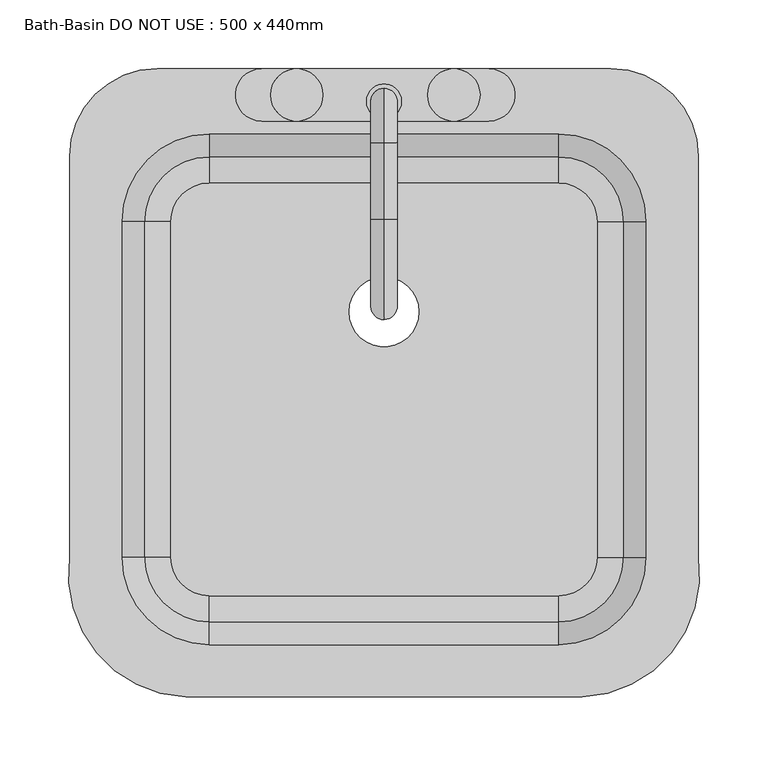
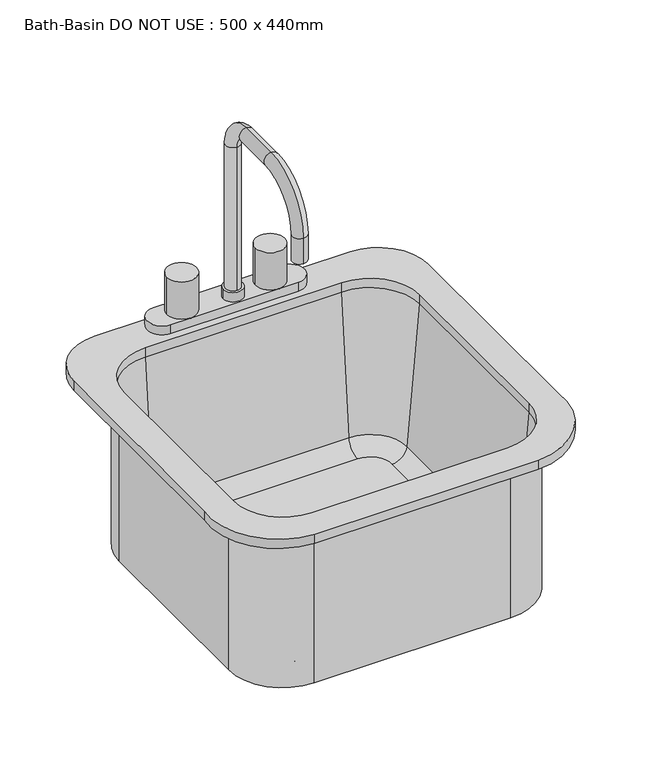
"""IFC4 building model written with IfcOpenShell, lengths in millimetres: flow terminal geometry, Bath-Basin DO NOT USE : 500 x 440mm."""

from ifc_helpers import new_model, si_unit, point, frame, origin, place, context, project, spatial, polyline, circle_curve, ellipse_curve, trimmed, source, transform, mapped, element, save
from ifc_brep_helpers import plane_surface, cylinder_surface, revolved_surface, advanced_brep


def bath_basin_do_not_use_500_x_440mm_d66f773a(model_context):
    return source(origin(), model_context, "Body", "AdvancedBrep", [
        advanced_brep(
        [(212.5392406, 69.0204011, 546.1), (142.6892406, 138.8704011, 546.1), (142.6892406, 138.8704011, 762.0), (212.5392406, 69.0204011, 762.0), (212.5392406, -175.4545989, 546.1), (142.6892406, -245.3045989, 546.1), (-111.3107595, -245.3045989, 546.1), (-181.1607595, -175.4545989, 546.1), (-181.1607595, 69.0204011, 546.1), (-111.3107595, 138.8704011, 546.1), (-9.7107594, 3.175, 546.1), (41.0892406, 3.175, 546.1), (170.6776588, 69.0204011, 555.625), (142.6892406, 97.0088193, 555.625), (-111.3107595, 97.0088193, 555.625), (-139.2991777, 69.0204011, 555.625), (-139.2991777, -175.4545989, 555.625), (-111.3107595, -203.4430171, 555.625), (142.6892406, -203.4430171, 555.625), (170.6776588, -175.4545989, 555.625), (-9.7107594, 3.175, 555.625), (41.0892406, 3.175, 555.625), (189.6551678, 69.0204011, 573.0146831), (142.6892406, 115.9863283, 573.0146831), (206.1892406, 69.0204011, 762.0), (142.6892406, 132.5204011, 762.0), (212.5392406, -175.4545989, 762.0), (189.6551678, -175.4545989, 573.0146831), (206.1892406, -175.4545989, 762.0), (142.6892406, -245.3045989, 762.0), (142.6892406, -222.4205261, 573.0146831), (142.6892406, -238.9545989, 762.0), (-111.3107595, -245.3045989, 762.0), (-111.3107595, -222.4205261, 573.0146831), (-111.3107595, -238.9545989, 762.0), (-181.1607595, -175.4545989, 762.0), (-158.2766867, -175.4545989, 573.0146831), (-174.8107595, -175.4545989, 762.0), (-181.1607595, 69.0204011, 762.0), (-158.2766867, 69.0204011, 573.0146831), (-174.8107595, 69.0204011, 762.0), (-111.3107595, 138.8704011, 762.0), (-111.3107595, 115.9863283, 573.0146831), (-111.3107595, 132.5204011, 762.0), (-128.5606924, -277.0545989, 774.7), (159.9391735, -277.0545989, 774.7), (244.2892406, -175.4545989, 774.7), (244.2892406, 116.6454011, 774.7), (180.7892406, 180.1454011, 774.7), (-149.4107594, 180.1454011, 774.7), (-212.9107594, 116.6454011, 774.7), (-212.9107594, -175.4545982, 774.7), (142.6892406, 132.5204011, 774.7), (206.1892406, 69.0204011, 774.7), (206.1892406, -175.4545989, 774.7), (142.6892406, -238.9545989, 774.7), (-111.3107595, -238.9545989, 774.7), (-174.8107595, -175.4545989, 774.7), (-174.8107595, 69.0204011, 774.7), (-111.3107595, 132.5204011, 774.7), (-128.5606924, -277.0545989, 762.0), (-212.9107594, -175.4545982, 762.0), (-212.9107594, 116.6454011, 762.0), (-149.4107594, 180.1454011, 762.0), (180.7892406, 180.1454011, 762.0), (244.2892406, 116.6454011, 762.0), (244.2892406, -175.4545989, 762.0), (159.9391735, -277.0545989, 762.0)],
        [
            (0, 1, circle_curve(frame((142.6892406, 69.0204011, 546.1), z_axis=(0.0, 0.0, 1.0), x_axis=(0.0, 1.0, 0.0)), 69.85)),
            (1, 2),
            (2, 3, circle_curve(frame((142.6892406, 69.0204011, 762.0), z_axis=(0.0, 0.0, -1.0), x_axis=(0.0, 1.0, 0.0)), 69.85)),
            (3, 0),
            (0, 4),
            (4, 5, circle_curve(frame((142.6892406, -175.4545989, 546.1), z_axis=(0.0, 0.0, -1.0), x_axis=(1.0, 0.0, 0.0)), 69.85)),
            (5, 6),
            (6, 7, circle_curve(frame((-111.3107595, -175.4545989, 546.1), z_axis=(0.0, 0.0, -1.0), x_axis=(0.0, -1.0, 0.0)), 69.85)),
            (7, 8),
            (8, 9, circle_curve(frame((-111.3107595, 69.0204011, 546.1), z_axis=(0.0, 0.0, -1.0), x_axis=(-1.0, 0.0, 0.0)), 69.85)),
            (9, 1),
            (10, 11, circle_curve(frame((15.6892406, 3.175, 546.1), z_axis=(0.0, 0.0, 1.0), x_axis=(1.0, 0.0, 0.0)), 25.4)),
            (11, 10, circle_curve(frame((15.6892406, 3.175, 546.1), z_axis=(0.0, 0.0, 1.0), x_axis=(1.0, 0.0, 0.0)), 25.4)),
            (12, 13, circle_curve(frame((142.6892406, 69.0204011, 555.625), z_axis=(0.0, 0.0, 1.0), x_axis=(0.0, 1.0, 0.0)), 27.9884182)),
            (13, 14),
            (14, 15, circle_curve(frame((-111.3107595, 69.0204011, 555.625), z_axis=(0.0, 0.0, 1.0), x_axis=(-1.0, 0.0, 0.0)), 27.9884182)),
            (15, 16),
            (16, 17, circle_curve(frame((-111.3107595, -175.4545989, 555.625), z_axis=(0.0, 0.0, 1.0), x_axis=(0.0, -1.0, 0.0)), 27.9884182)),
            (17, 18),
            (18, 19, circle_curve(frame((142.6892406, -175.4545989, 555.625), z_axis=(0.0, 0.0, 1.0), x_axis=(1.0, 0.0, 0.0)), 27.9884182)),
            (19, 12),
            (20, 21, circle_curve(frame((15.6892406, 3.175, 555.625), z_axis=(0.0, 0.0, -1.0), x_axis=(1.0, 0.0, 0.0)), 25.4)),
            (21, 20, circle_curve(frame((15.6892406, 3.175, 555.625), z_axis=(0.0, 0.0, -1.0), x_axis=(1.0, 0.0, 0.0)), 25.4)),
            (12, 22, circle_curve(frame((170.6776588, 69.0204011, 574.675), z_axis=(0.0, -1.0, 0.0), x_axis=(1.0, 0.0, 0.0)), 19.05)),
            (22, 23, circle_curve(frame((142.6892406, 69.0204011, 573.0146831), z_axis=(0.0, 0.0, 1.0), x_axis=(0.0, 1.0, 0.0)), 46.9659272)),
            (23, 13, circle_curve(frame((142.6892406, 97.0088193, 574.675), z_axis=(-1.0, 0.0, 0.0), x_axis=(0.0, 1.0, 0.0)), 19.05)),
            (22, 24),
            (24, 25, circle_curve(frame((142.6892406, 69.0204011, 762.0), z_axis=(0.0, 0.0, 1.0), x_axis=(0.0, 1.0, 0.0)), 63.5)),
            (25, 23),
            (3, 26),
            (26, 4),
            (19, 27, circle_curve(frame((170.6776588, -175.4545989, 574.675), z_axis=(0.0, -1.0, 0.0), x_axis=(1.0, 0.0, 0.0)), 19.05)),
            (27, 22),
            (27, 28),
            (28, 24),
            (26, 29, circle_curve(frame((142.6892406, -175.4545989, 762.0), z_axis=(0.0, 0.0, -1.0), x_axis=(1.0, 0.0, 0.0)), 69.85)),
            (29, 5),
            (18, 30, circle_curve(frame((142.6892406, -203.4430171, 574.675), z_axis=(-1.0, 0.0, 0.0), x_axis=(0.0, -1.0, 0.0)), 19.05)),
            (30, 27, circle_curve(frame((142.6892406, -175.4545989, 573.0146831), z_axis=(0.0, 0.0, 1.0), x_axis=(1.0, 0.0, 0.0)), 46.9659272)),
            (30, 31),
            (31, 28, circle_curve(frame((142.6892406, -175.4545989, 762.0), z_axis=(0.0, 0.0, 1.0), x_axis=(1.0, 0.0, 0.0)), 63.5)),
            (29, 32),
            (32, 6),
            (17, 33, circle_curve(frame((-111.3107595, -203.4430171, 574.675), z_axis=(-1.0, 0.0, 0.0), x_axis=(0.0, -1.0, 0.0)), 19.05)),
            (33, 30),
            (33, 34),
            (34, 31),
            (32, 35, circle_curve(frame((-111.3107595, -175.4545989, 762.0), z_axis=(0.0, 0.0, -1.0), x_axis=(0.0, -1.0, 0.0)), 69.85)),
            (35, 7),
            (16, 36, circle_curve(frame((-139.2991777, -175.4545989, 574.675), z_axis=(0.0, 1.0, 0.0), x_axis=(-1.0, 0.0, 0.0)), 19.05)),
            (36, 33, circle_curve(frame((-111.3107595, -175.4545989, 573.0146831), z_axis=(0.0, 0.0, 1.0), x_axis=(0.0, -1.0, 0.0)), 46.9659272)),
            (36, 37),
            (37, 34, circle_curve(frame((-111.3107595, -175.4545989, 762.0), z_axis=(0.0, 0.0, 1.0), x_axis=(0.0, -1.0, 0.0)), 63.5)),
            (35, 38),
            (38, 8),
            (15, 39, circle_curve(frame((-139.2991777, 69.0204011, 574.675), z_axis=(0.0, 1.0, 0.0), x_axis=(-1.0, 0.0, 0.0)), 19.05)),
            (39, 36),
            (39, 40),
            (40, 37),
            (38, 41, circle_curve(frame((-111.3107595, 69.0204011, 762.0), z_axis=(0.0, 0.0, -1.0), x_axis=(-1.0, 0.0, 0.0)), 69.85)),
            (41, 9),
            (14, 42, circle_curve(frame((-111.3107595, 97.0088193, 574.675), z_axis=(1.0, 0.0, 0.0), x_axis=(0.0, 1.0, 0.0)), 19.05)),
            (42, 39, circle_curve(frame((-111.3107595, 69.0204011, 573.0146831), z_axis=(0.0, 0.0, 1.0), x_axis=(-1.0, 0.0, 0.0)), 46.9659272)),
            (42, 43),
            (43, 40, circle_curve(frame((-111.3107595, 69.0204011, 762.0), z_axis=(0.0, 0.0, 1.0), x_axis=(-1.0, 0.0, 0.0)), 63.5)),
            (41, 2),
            (23, 42),
            (25, 43),
            (20, 10),
            (11, 21),
            (44, 45),
            (45, 46, circle_curve(frame((156.1319558, -188.0793432, 774.7), z_axis=(0.0, 0.0, 1.0), x_axis=(1.0, 0.0, 0.0)), 89.0566732)),
            (46, 47),
            (47, 48, circle_curve(frame((180.7892406, 116.6454011, 774.7), z_axis=(0.0, 0.0, 1.0), x_axis=(1.0, 0.0, 0.0)), 63.5)),
            (48, 49),
            (49, 50, circle_curve(frame((-149.4107594, 116.6454011, 774.7), z_axis=(0.0, 0.0, 1.0), x_axis=(1.0, 0.0, 0.0)), 63.5)),
            (50, 51),
            (51, 44, circle_curve(frame((-124.7534746, -188.0793432, 774.7), z_axis=(0.0, 0.0, 1.0), x_axis=(1.0, 0.0, 0.0)), 89.0566732)),
            (52, 53, circle_curve(frame((142.6892406, 69.0204011, 774.7), z_axis=(0.0, 0.0, -1.0), x_axis=(1.0, 0.0, 0.0)), 63.5)),
            (53, 54),
            (54, 55, circle_curve(frame((142.6892406, -175.4545989, 774.7), z_axis=(0.0, 0.0, -1.0), x_axis=(1.0, 0.0, 0.0)), 63.5)),
            (55, 56),
            (56, 57, circle_curve(frame((-111.3107595, -175.4545989, 774.7), z_axis=(0.0, 0.0, -1.0), x_axis=(1.0, 0.0, 0.0)), 63.5)),
            (57, 58),
            (58, 59, circle_curve(frame((-111.3107595, 69.0204011, 774.7), z_axis=(0.0, 0.0, -1.0), x_axis=(1.0, 0.0, 0.0)), 63.5)),
            (59, 52),
            (60, 61, circle_curve(frame((-124.7534746, -188.0793432, 762.0), z_axis=(0.0, 0.0, -1.0), x_axis=(1.0, 0.0, 0.0)), 89.0566732)),
            (61, 62),
            (62, 63, circle_curve(frame((-149.4107594, 116.6454011, 762.0), z_axis=(0.0, 0.0, -1.0), x_axis=(1.0, 0.0, 0.0)), 63.5)),
            (63, 64),
            (64, 65, circle_curve(frame((180.7892406, 116.6454011, 762.0), z_axis=(0.0, 0.0, -1.0), x_axis=(1.0, 0.0, 0.0)), 63.5)),
            (65, 66),
            (66, 67, circle_curve(frame((156.1319558, -188.0793432, 762.0), z_axis=(0.0, 0.0, -1.0), x_axis=(1.0, 0.0, 0.0)), 89.0566732)),
            (67, 60),
            (44, 60),
            (67, 45),
            (66, 46),
            (65, 47),
            (64, 48),
            (63, 49),
            (62, 50),
            (61, 51),
            (52, 25),
            (24, 53),
            (28, 54),
            (31, 55),
            (34, 56),
            (37, 57),
            (40, 58),
            (43, 59),
        ],
        [
            cylinder_surface(frame((142.6892406, 69.0204011, 0.0), z_axis=(0.0, 0.0, -1.0), x_axis=(0.0, 1.0, 0.0)), 69.85),
            plane_surface(frame((142.6892406, 69.0204011, 546.1), z_axis=(0.0, 0.0, -1.0), x_axis=(0.0, 1.0, 0.0))),
            plane_surface(frame((142.6892406, 69.0204011, 555.625), z_axis=(0.0, 0.0, 1.0), x_axis=(0.0, 1.0, 0.0))),
            revolved_surface(trimmed(ellipse_curve(frame((142.6892406, 97.0088193, 574.675), z_axis=(1.0, 0.0, 0.0), x_axis=(0.0, 1.0, 0.0)), 19.05, 19.05), [point((142.6892406, 97.0088193, 555.625))], [point((142.6892406, 115.9863283, 573.0146831))], True, "CARTESIAN"), (142.6892406, 69.0204011, 0.0), (0.0, 0.0, -1.0)),
            revolved_surface(polyline([(142.6892406, 115.9863283, 573.0146831), (142.6892406, 132.5204011, 762.0)]), (142.6892406, 69.0204011, 0.0), (0.0, 0.0, -1.0)),
            plane_surface(frame((212.5392406, 69.0204011, 762.0), z_axis=(1.0, 0.0, 0.0), x_axis=(0.0, -1.0, 0.0))),
            revolved_surface(polyline([(189.7276588, -175.4545989, 574.675), (189.7276588, 69.0204011, 574.675)]), (170.6776588, 69.0204011, 574.675), (0.0, -1.0, 0.0)),
            plane_surface(frame((189.6551678, 69.0204011, 573.0146831), z_axis=(-0.9961946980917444, 0.0, 0.08715574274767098), x_axis=(0.0, -1.0, 0.0))),
            cylinder_surface(frame((142.6892406, -175.4545989, 0.0), z_axis=(0.0, 0.0, -1.0), x_axis=(1.0, 0.0, 0.0)), 69.85),
            revolved_surface(trimmed(ellipse_curve(frame((170.6776588, -175.4545989, 574.675), z_axis=(0.0, -1.0, 0.0), x_axis=(1.0, 0.0, 0.0)), 19.05, 19.05), [point((170.6776588, -175.4545989, 555.625))], [point((189.6551678, -175.4545989, 573.0146831))], True, "CARTESIAN"), (142.6892406, -175.4545989, 0.0), (0.0, 0.0, -1.0)),
            revolved_surface(polyline([(189.6551678, -175.4545989, 573.0146831), (206.1892406, -175.4545989, 762.0)]), (142.6892406, -175.4545989, 0.0), (0.0, 0.0, -1.0)),
            plane_surface(frame((142.6892406, -245.3045989, 762.0), z_axis=(0.0, -1.0, 0.0), x_axis=(-1.0, 0.0, 0.0))),
            revolved_surface(polyline([(-111.31075950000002, -222.4930171, 574.675), (142.6892406, -222.4930171, 574.675)]), (142.6892406, -203.4430171, 574.675), (-1.0, 0.0, 0.0)),
            plane_surface(frame((142.6892406, -222.4205261, 573.0146831), z_axis=(0.0, 0.9961946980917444, 0.08715574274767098), x_axis=(-1.0, 0.0, 0.0))),
            cylinder_surface(frame((-111.3107595, -175.4545989, 0.0), z_axis=(0.0, 0.0, -1.0), x_axis=(0.0, -1.0, 0.0)), 69.85),
            revolved_surface(trimmed(ellipse_curve(frame((-111.3107595, -203.4430171, 574.675), z_axis=(-1.0, 0.0, 0.0), x_axis=(0.0, -1.0, 0.0)), 19.05, 19.05), [point((-111.3107595, -203.4430171, 555.625))], [point((-111.3107595, -222.4205261, 573.0146831))], True, "CARTESIAN"), (-111.3107595, -175.4545989, 0.0), (0.0, 0.0, -1.0)),
            revolved_surface(polyline([(-111.3107595, -222.4205261, 573.0146831), (-111.3107595, -238.9545989, 762.0)]), (-111.3107595, -175.4545989, 0.0), (0.0, 0.0, -1.0)),
            plane_surface(frame((-181.1607595, -175.4545989, 762.0), z_axis=(-1.0, 0.0, 0.0), x_axis=(0.0, 1.0, 0.0))),
            revolved_surface(polyline([(-158.3491777, 69.02040110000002, 574.675), (-158.3491777, -175.4545989, 574.675)]), (-139.2991777, -175.4545989, 574.675), (0.0, 1.0, 0.0)),
            plane_surface(frame((-158.2766867, -175.4545989, 573.0146831), z_axis=(0.9961946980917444, 0.0, 0.08715574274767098), x_axis=(0.0, 1.0, 0.0))),
            cylinder_surface(frame((-111.3107595, 69.0204011, 0.0), z_axis=(0.0, 0.0, -1.0), x_axis=(-1.0, 0.0, 0.0)), 69.85),
            revolved_surface(trimmed(ellipse_curve(frame((-139.2991777, 69.0204011, 574.675), z_axis=(0.0, 1.0, 0.0), x_axis=(-1.0, 0.0, 0.0)), 19.05, 19.05), [point((-139.2991777, 69.0204011, 555.625))], [point((-158.2766867, 69.0204011, 573.0146831))], True, "CARTESIAN"), (-111.3107595, 69.0204011, 0.0), (0.0, 0.0, -1.0)),
            revolved_surface(polyline([(-158.2766867, 69.0204011, 573.0146831), (-174.8107595, 69.0204011, 762.0)]), (-111.3107595, 69.0204011, 0.0), (0.0, 0.0, -1.0)),
            plane_surface(frame((-111.3107595, 138.8704011, 762.0), z_axis=(0.0, 1.0, 0.0), x_axis=(1.0, 0.0, 0.0))),
            revolved_surface(polyline([(142.6892406, 116.0588193, 574.675), (-111.3107595, 116.0588193, 574.675)]), (-111.3107595, 97.0088193, 574.675), (1.0, 0.0, 0.0)),
            plane_surface(frame((-111.3107595, 115.9863283, 573.0146831), z_axis=(0.0, -0.9961946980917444, 0.08715574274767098), x_axis=(1.0, 0.0, 0.0))),
            revolved_surface(polyline([(41.0892406, 3.175, 546.1), (41.0892406, 3.175, 555.625)]), (15.6892406, 3.175, 0.0), (0.0, 0.0, -1.0)),
            plane_surface(frame((159.9391735, -277.0545989, 774.7), z_axis=(0.0, 0.0, 1.0), x_axis=(1.0, 0.0, 0.0))),
            plane_surface(frame((159.9391735, -277.0545989, 762.0), z_axis=(0.0, 0.0, -1.0), x_axis=(-1.0, 0.0, 0.0))),
            plane_surface(frame((-128.5606924, -277.0545989, 774.7), z_axis=(0.0, -1.0, 0.0), x_axis=(0.0, 0.0, -1.0))),
            cylinder_surface(frame((156.1319558, -188.0793432, 762.0), z_axis=(0.0, 0.0, 1.0), x_axis=(1.0, 0.0, 0.0)), 89.0566732),
            plane_surface(frame((244.2892406, -175.4545989, 774.7), z_axis=(1.0, 0.0, 0.0), x_axis=(0.0, 0.0, -1.0))),
            cylinder_surface(frame((180.7892406, 116.6454011, 762.0), z_axis=(0.0, 0.0, 1.0), x_axis=(1.0, 0.0, 0.0)), 63.5),
            plane_surface(frame((180.7892406, 180.1454011, 774.7), z_axis=(0.0, 1.0, 0.0), x_axis=(0.0, 0.0, -1.0))),
            cylinder_surface(frame((-149.4107594, 116.6454011, 762.0), z_axis=(0.0, 0.0, 1.0), x_axis=(1.0, 0.0, 0.0)), 63.5),
            plane_surface(frame((-212.9107594, 116.6454011, 774.7), z_axis=(-1.0, 0.0, 0.0), x_axis=(0.0, 0.0, -1.0))),
            cylinder_surface(frame((-124.7534746, -188.0793432, 762.0), z_axis=(0.0, 0.0, 1.0), x_axis=(1.0, 0.0, 0.0)), 89.0566732),
            revolved_surface(polyline([(206.1892406, 69.0204011, 762.0), (206.1892406, 69.0204011, 774.7)]), (142.6892406, 69.0204011, 0.0), (0.0, 0.0, -1.0)),
            plane_surface(frame((206.1892406, 69.0204011, 774.7), z_axis=(-1.0, 0.0, 0.0), x_axis=(0.0, 0.0, -1.0))),
            revolved_surface(polyline([(206.1892406, -175.4545989, 762.0), (206.1892406, -175.4545989, 774.7)]), (142.6892406, -175.4545989, 0.0), (0.0, 0.0, -1.0)),
            plane_surface(frame((142.6892406, -238.9545989, 774.7), z_axis=(0.0, 1.0, 0.0), x_axis=(0.0, 0.0, -1.0))),
            revolved_surface(polyline([(-47.8107595, -175.4545989, 762.0), (-47.8107595, -175.4545989, 774.7)]), (-111.3107595, -175.4545989, 0.0), (0.0, 0.0, -1.0)),
            plane_surface(frame((-174.8107595, -175.4545989, 774.7), z_axis=(1.0, 0.0, 0.0), x_axis=(0.0, 0.0, -1.0))),
            revolved_surface(polyline([(-47.8107595, 69.0204011, 762.0), (-47.8107595, 69.0204011, 774.7)]), (-111.3107595, 69.0204011, 0.0), (0.0, 0.0, -1.0)),
            plane_surface(frame((-111.3107595, 132.5204011, 774.7), z_axis=(0.0, -1.0, 0.0), x_axis=(0.0, 0.0, -1.0))),
        ],
        [
            (0, [[1, 2, 3, 4]]),
            (1, [[-1, 5, 6, 7, 8, 9, 10, 11], [12, 13]]),
            (2, [[14, 15, 16, 17, 18, 19, 20, 21], [22, 23]]),
            (3, [[-14, 24, 25, 26]]),
            (4, [[-25, 27, 28, 29]]),
            (5, [[-4, 30, 31, -5]]),
            (6, [[-24, -21, 32, 33]]),
            (7, [[-27, -33, 34, 35]]),
            (8, [[-31, 36, 37, -6]]),
            (9, [[-32, -20, 38, 39]]),
            (10, [[-34, -39, 40, 41]]),
            (11, [[-37, 42, 43, -7]]),
            (12, [[-38, -19, 44, 45]]),
            (13, [[-40, -45, 46, 47]]),
            (14, [[-43, 48, 49, -8]]),
            (15, [[-44, -18, 50, 51]]),
            (16, [[-46, -51, 52, 53]]),
            (17, [[-49, 54, 55, -9]]),
            (18, [[-50, -17, 56, 57]]),
            (19, [[-52, -57, 58, 59]]),
            (20, [[-55, 60, 61, -10]]),
            (21, [[-56, -16, 62, 63]]),
            (22, [[-58, -63, 64, 65]]),
            (23, [[-2, -11, -61, 66]]),
            (24, [[-26, 67, -62, -15]]),
            (25, [[-29, 68, -64, -67]]),
            (26, [[-22, 69, -13, 70]]),
            (26, [[-23, -70, -12, -69]]),
            (27, [[71, 72, 73, 74, 75, 76, 77, 78], [79, 80, 81, 82, 83, 84, 85, 86]]),
            (28, [[87, 88, 89, 90, 91, 92, 93, 94], [-3, -66, -60, -54, -48, -42, -36, -30]]),
            (29, [[-71, 95, -94, 96]]),
            (30, [[-72, -96, -93, 97]]),
            (31, [[-73, -97, -92, 98]]),
            (32, [[-74, -98, -91, 99]]),
            (33, [[-75, -99, -90, 100]]),
            (34, [[-76, -100, -89, 101]]),
            (35, [[-77, -101, -88, 102]]),
            (36, [[-78, -102, -87, -95]]),
            (37, [[-79, 103, -28, 104]]),
            (38, [[-80, -104, -35, 105]]),
            (39, [[-81, -105, -41, 106]]),
            (40, [[-82, -106, -47, 107]]),
            (41, [[-83, -107, -53, 108]]),
            (42, [[-84, -108, -59, 109]]),
            (43, [[-85, -109, -65, 110]]),
            (44, [[-86, -110, -68, -103]]),
        ],
    ),
        advanced_brep(
        [(91.8892406, 180.1454011, 774.7), (91.8892406, 142.0454011, 774.7), (66.4892406, 142.0454011, 774.7), (-47.8107594, 142.0454011, 774.7), (-73.2107594, 142.0454011, 774.7), (-73.2107594, 180.1454011, 774.7), (-47.8107594, 180.1454011, 774.7), (66.4892406, 180.1454011, 774.7), (15.6892406, 165.8579011, 995.3625), (15.6892406, 146.8079011, 995.3625), (15.6892406, 146.8079011, 800.1), (15.6892406, 165.8579011, 800.1), (15.6892406, 126.1704011, 1035.05), (15.6892406, 126.1704011, 1016.0), (15.6892406, 70.6079011, 1035.05), (15.6892406, 70.6079011, 1016.0), (15.6892406, -2.4170989, 962.025), (15.6892406, 16.6329011, 962.025), (15.6892406, -2.4170989, 927.1), (15.6892406, 16.6329011, 927.1), (2.9892406, 156.3329011, 800.1), (28.3892406, 156.3329011, 800.1), (2.9892406, 156.3329011, 787.2), (28.3892406, 156.3329011, 787.2), (-73.2107594, 180.1454011, 787.2), (-73.2107594, 142.0454011, 787.2), (-47.8107594, 142.0454011, 787.2), (-66.8607594, 161.0954011, 787.2), (-47.8107594, 180.1454011, 787.2), (91.8892406, 142.0454011, 787.2), (91.8892406, 180.1454011, 787.2), (66.4892406, 180.1454011, 787.2), (85.5392406, 161.0954011, 787.2), (66.4892406, 142.0454011, 787.2), (-28.7607594, 161.0954011, 787.2), (47.4392406, 161.0954011, 787.2), (-66.8607594, 161.0954011, 838.2), (-28.7607594, 161.0954011, 838.2), (47.4392406, 161.0954011, 838.2), (85.5392406, 161.0954011, 838.2)],
        [
            (0, 1, circle_curve(frame((91.8892406, 161.0954011, 774.7), z_axis=(0.0, 0.0, -1.0), x_axis=(1.0, 0.0, 0.0)), 19.05)),
            (1, 2),
            (2, 3),
            (3, 4),
            (4, 5, circle_curve(frame((-73.2107594, 161.0954011, 774.7), z_axis=(0.0, 0.0, -1.0), x_axis=(1.0, 0.0, 0.0)), 19.05)),
            (5, 6),
            (6, 7),
            (7, 0),
            (8, 9, circle_curve(frame((15.6892406, 156.3329011, 995.3625), z_axis=(0.0, 0.0, -1.0), x_axis=(0.0, -1.0, 0.0)), 9.525)),
            (9, 10),
            (10, 11, circle_curve(frame((15.6892406, 156.3329011, 800.1), z_axis=(0.0, 0.0, 1.0), x_axis=(0.0, -1.0, 0.0)), 9.525)),
            (11, 8),
            (9, 8, circle_curve(frame((15.6892406, 156.3329011, 995.3625), z_axis=(0.0, 0.0, -1.0), x_axis=(0.0, -1.0, 0.0)), 9.525)),
            (11, 10, circle_curve(frame((15.6892406, 156.3329011, 800.1), z_axis=(0.0, 0.0, 1.0), x_axis=(0.0, -1.0, 0.0)), 9.525)),
            (8, 12, circle_curve(frame((15.6892406, 126.1704011, 995.3625), z_axis=(1.0, 0.0, 0.0), x_axis=(0.0, 1.0, 0.0)), 39.6875)),
            (12, 13, circle_curve(frame((15.6892406, 126.1704011, 1025.525), z_axis=(0.0, 1.0, 0.0), x_axis=(0.0, 0.0, -1.0)), 9.525)),
            (13, 9, circle_curve(frame((15.6892406, 126.1704011, 995.3625), z_axis=(-1.0, 0.0, 0.0), x_axis=(0.0, 1.0, 0.0)), 20.6375)),
            (13, 12, circle_curve(frame((15.6892406, 126.1704011, 1025.525), z_axis=(0.0, 1.0, 0.0), x_axis=(0.0, 0.0, -1.0)), 9.525)),
            (12, 14),
            (14, 15, circle_curve(frame((15.6892406, 70.6079011, 1025.525), z_axis=(0.0, 1.0, 0.0), x_axis=(0.0, 0.0, -1.0)), 9.525)),
            (15, 13),
            (15, 14, circle_curve(frame((15.6892406, 70.6079011, 1025.525), z_axis=(0.0, 1.0, 0.0), x_axis=(0.0, 0.0, -1.0)), 9.525)),
            (14, 16, circle_curve(frame((15.6892406, 70.6079011, 962.025), z_axis=(1.0, 0.0, 0.0), x_axis=(0.0, 0.0, 1.0)), 73.025)),
            (16, 17, circle_curve(frame((15.6892406, 7.1079011, 962.025), z_axis=(0.0, 0.0, 1.0), x_axis=(0.0, 1.0, 0.0)), 9.525)),
            (17, 15, circle_curve(frame((15.6892406, 70.6079011, 962.025), z_axis=(-1.0, 0.0, 0.0), x_axis=(0.0, 0.0, 1.0)), 53.975)),
            (17, 16, circle_curve(frame((15.6892406, 7.1079011, 962.025), z_axis=(0.0, 0.0, 1.0), x_axis=(0.0, 1.0, 0.0)), 9.525)),
            (18, 19, circle_curve(frame((15.6892406, 7.1079011, 927.1), z_axis=(0.0, 0.0, -1.0), x_axis=(0.0, 1.0, 0.0)), 9.525)),
            (19, 18, circle_curve(frame((15.6892406, 7.1079011, 927.1), z_axis=(0.0, 0.0, -1.0), x_axis=(0.0, 1.0, 0.0)), 9.525)),
            (16, 18),
            (19, 17),
            (20, 21, circle_curve(frame((15.6892406, 156.3329011, 800.1), z_axis=(0.0, 0.0, 1.0), x_axis=(1.0, 0.0, 0.0)), 12.7)),
            (21, 20, circle_curve(frame((15.6892406, 156.3329011, 800.1), z_axis=(0.0, 0.0, 1.0), x_axis=(1.0, 0.0, 0.0)), 12.7)),
            (20, 22),
            (22, 23, circle_curve(frame((15.6892406, 156.3329011, 787.2), z_axis=(0.0, 0.0, 1.0), x_axis=(1.0, 0.0, 0.0)), 12.7)),
            (23, 21),
            (23, 22, circle_curve(frame((15.6892406, 156.3329011, 787.2), z_axis=(0.0, 0.0, 1.0), x_axis=(1.0, 0.0, 0.0)), 12.7)),
            (24, 25, circle_curve(frame((-73.2107594, 161.0954011, 787.2), z_axis=(0.0, 0.0, 1.0), x_axis=(1.0, 0.0, 0.0)), 19.05)),
            (25, 26),
            (26, 27, circle_curve(frame((-47.8107594, 161.0954011, 787.2), z_axis=(0.0, 0.0, -1.0), x_axis=(1.0, 0.0, 0.0)), 19.05)),
            (27, 28, circle_curve(frame((-47.8107594, 161.0954011, 787.2), z_axis=(0.0, 0.0, -1.0), x_axis=(1.0, 0.0, 0.0)), 19.05)),
            (28, 24),
            (29, 30, circle_curve(frame((91.8892406, 161.0954011, 787.2), z_axis=(0.0, 0.0, 1.0), x_axis=(1.0, 0.0, 0.0)), 19.05)),
            (30, 31),
            (31, 32, circle_curve(frame((66.4892406, 161.0954011, 787.2), z_axis=(0.0, 0.0, -1.0), x_axis=(1.0, 0.0, 0.0)), 19.05)),
            (32, 33, circle_curve(frame((66.4892406, 161.0954011, 787.2), z_axis=(0.0, 0.0, -1.0), x_axis=(1.0, 0.0, 0.0)), 19.05)),
            (33, 29),
            (31, 28),
            (28, 34, circle_curve(frame((-47.8107594, 161.0954011, 787.2), z_axis=(0.0, 0.0, -1.0), x_axis=(1.0, 0.0, 0.0)), 19.05)),
            (34, 26, circle_curve(frame((-47.8107594, 161.0954011, 787.2), z_axis=(0.0, 0.0, -1.0), x_axis=(1.0, 0.0, 0.0)), 19.05)),
            (26, 33),
            (33, 35, circle_curve(frame((66.4892406, 161.0954011, 787.2), z_axis=(0.0, 0.0, -1.0), x_axis=(1.0, 0.0, 0.0)), 19.05)),
            (35, 31, circle_curve(frame((66.4892406, 161.0954011, 787.2), z_axis=(0.0, 0.0, -1.0), x_axis=(1.0, 0.0, 0.0)), 19.05)),
            (30, 0),
            (5, 24),
            (4, 25),
            (1, 29),
            (36, 37, circle_curve(frame((-47.8107594, 161.0954011, 838.2), z_axis=(0.0, 0.0, 1.0), x_axis=(1.0, 0.0, 0.0)), 19.05)),
            (37, 36, circle_curve(frame((-47.8107594, 161.0954011, 838.2), z_axis=(0.0, 0.0, 1.0), x_axis=(1.0, 0.0, 0.0)), 19.05)),
            (38, 39, circle_curve(frame((66.4892406, 161.0954011, 838.2), z_axis=(0.0, 0.0, 1.0), x_axis=(1.0, 0.0, 0.0)), 19.05)),
            (39, 38, circle_curve(frame((66.4892406, 161.0954011, 838.2), z_axis=(0.0, 0.0, 1.0), x_axis=(1.0, 0.0, 0.0)), 19.05)),
            (36, 27),
            (34, 37),
            (38, 35),
            (32, 39),
        ],
        [
            plane_surface(frame((15.6892406, 146.8079011, 774.7), z_axis=(0.0, 0.0, -1.0), x_axis=(1.0, 0.0, 0.0))),
            cylinder_surface(frame((15.6892406, 156.3329011, 774.7), z_axis=(0.0, 0.0, -1.0), x_axis=(0.0, -1.0, 0.0)), 9.525),
            revolved_surface(trimmed(ellipse_curve(frame((15.6892406, 156.3329011, 995.3625), z_axis=(0.0, 0.0, -1.0), x_axis=(0.0, -1.0, 0.0)), 9.525, 9.525), [point((15.6892406, 165.8579011, 995.3625))], [point((15.6892406, 146.8079011, 995.3625))], True, "CARTESIAN"), (15.6892406, 126.1704011, 995.3625), (1.0, 0.0, 0.0)),
            revolved_surface(trimmed(ellipse_curve(frame((15.6892406, 156.3329011, 995.3625), z_axis=(0.0, 0.0, -1.0), x_axis=(0.0, -1.0, 0.0)), 9.525, 9.525), [point((15.6892406, 146.8079011, 995.3625))], [point((15.6892406, 165.8579011, 995.3625))], True, "CARTESIAN"), (15.6892406, 126.1704011, 995.3625), (1.0, 0.0, 0.0)),
            cylinder_surface(frame((15.6892406, 126.1704011, 1025.525), z_axis=(0.0, 1.0, 0.0), x_axis=(0.0, 0.0, -1.0)), 9.525),
            revolved_surface(trimmed(ellipse_curve(frame((15.6892406, 70.6079011, 1025.525), z_axis=(0.0, 1.0, 0.0), x_axis=(0.0, 0.0, -1.0)), 9.525, 9.525), [point((15.6892406, 70.6079011, 1035.05))], [point((15.6892406, 70.6079011, 1016.0))], True, "CARTESIAN"), (15.6892406, 70.6079011, 962.025), (1.0, 0.0, 0.0)),
            revolved_surface(trimmed(ellipse_curve(frame((15.6892406, 70.6079011, 1025.525), z_axis=(0.0, 1.0, 0.0), x_axis=(0.0, 0.0, -1.0)), 9.525, 9.525), [point((15.6892406, 70.6079011, 1016.0))], [point((15.6892406, 70.6079011, 1035.05))], True, "CARTESIAN"), (15.6892406, 70.6079011, 962.025), (1.0, 0.0, 0.0)),
            plane_surface(frame((15.6892406, -2.4170989, 927.1), z_axis=(0.0, 0.0, -1.0), x_axis=(-1.0, 0.0, 0.0))),
            cylinder_surface(frame((15.6892406, 7.1079011, 962.025), z_axis=(0.0, 0.0, 1.0), x_axis=(0.0, 1.0, 0.0)), 9.525),
            plane_surface(frame((28.3892406, 156.3329011, 800.1), z_axis=(0.0, 0.0, 1.0), x_axis=(0.0, 1.0, 0.0))),
            cylinder_surface(frame((15.6892406, 156.3329011, 774.7), z_axis=(0.0, 0.0, 1.0), x_axis=(1.0, 0.0, 0.0)), 12.7),
            plane_surface(frame((-73.2107594, 180.1454011, 787.2), z_axis=(0.0, 0.0, 1.0), x_axis=(-1.0, 0.0, 0.0))),
            plane_surface(frame((91.8892406, 180.1454011, 787.2), z_axis=(0.0, 1.0, 0.0), x_axis=(0.0, 0.0, -1.0))),
            cylinder_surface(frame((-73.2107594, 161.0954011, 774.7), z_axis=(0.0, 0.0, 1.0), x_axis=(1.0, 0.0, 0.0)), 19.05),
            plane_surface(frame((-73.2107594, 142.0454011, 787.2), z_axis=(0.0, -1.0, 0.0), x_axis=(0.0, 0.0, -1.0))),
            cylinder_surface(frame((91.8892406, 161.0954011, 774.7), z_axis=(0.0, 0.0, 1.0), x_axis=(1.0, 0.0, 0.0)), 19.05),
            plane_surface(frame((-28.7607594, 161.0954011, 838.2), z_axis=(0.0, 0.0, 1.0), x_axis=(0.0, 1.0, 0.0))),
            cylinder_surface(frame((-47.8107594, 161.0954011, 774.7), z_axis=(0.0, 0.0, 1.0), x_axis=(1.0, 0.0, 0.0)), 19.05),
            cylinder_surface(frame((66.4892406, 161.0954011, 0.0), z_axis=(0.0, 0.0, 1.0), x_axis=(1.0, 0.0, 0.0)), 19.05),
        ],
        [
            (0, [[1, 2, 3, 4, 5, 6, 7, 8]]),
            (1, [[9, 10, 11, 12]]),
            (1, [[13, -12, 14, -10]]),
            (2, [[-9, 15, 16, 17]]),
            (3, [[-13, -17, 18, -15]]),
            (4, [[-16, 19, 20, 21]]),
            (4, [[-18, -21, 22, -19]]),
            (5, [[-20, 23, 24, 25]]),
            (6, [[-22, -25, 26, -23]]),
            (7, [[27, 28]]),
            (8, [[-24, 29, -28, 30]]),
            (8, [[-26, -30, -27, -29]]),
            (9, [[31, 32], [-11, -14]]),
            (10, [[-31, 33, 34, 35]]),
            (10, [[-32, -35, 36, -33]]),
            (11, [[37, 38, 39, 40, 41]]),
            (11, [[42, 43, 44, 45, 46]]),
            (11, [[47, 48, 49, 50, 51, 52], [-34, -36]]),
            (12, [[53, -8, -7, -6, 54, -41, -47, -43]]),
            (13, [[-37, -54, -5, 55]]),
            (14, [[-55, -4, -3, -2, 56, -46, -50, -38]]),
            (15, [[-42, -56, -1, -53]]),
            (16, [[57, 58]]),
            (16, [[59, 60]]),
            (17, [[-57, 61, -39, -49, 62]]),
            (17, [[-58, -62, -48, -40, -61]]),
            (18, [[-59, 63, -51, -45, 64]]),
            (18, [[-60, -64, -44, -52, -63]]),
        ],
    ),
    ])


if __name__ == "__main__":
    model = new_model("IFC4")
    model_context = context("Model", 3, world=origin())
    ifc_project = project(units=[si_unit("LENGTHUNIT", "METRE", prefix="MILLI")], contexts=[model_context])
    site = spatial("IfcSite", under=ifc_project)
    building = spatial("IfcBuilding", under=site)
    placement = place(None, origin())
    bath_basin_do_not_use_500_x_440mm_shape = bath_basin_do_not_use_500_x_440mm_d66f773a(model_context)
    element("IfcFlowTerminal", 1, ObjectType="Bath-Basin DO NOT USE : 500 x 440mm", at=placement, inside=building, context=model_context, shape_type="MappedRepresentation", body=[
        mapped(bath_basin_do_not_use_500_x_440mm_shape, transform((0.0, 0.0, 0.0), x_axis=(1.0, 0.0, 0.0), y_axis=(0.0, 1.0, 0.0), z_axis=(0.0, 0.0, 1.0))),
    ])
    save(model, "model.ifc")
